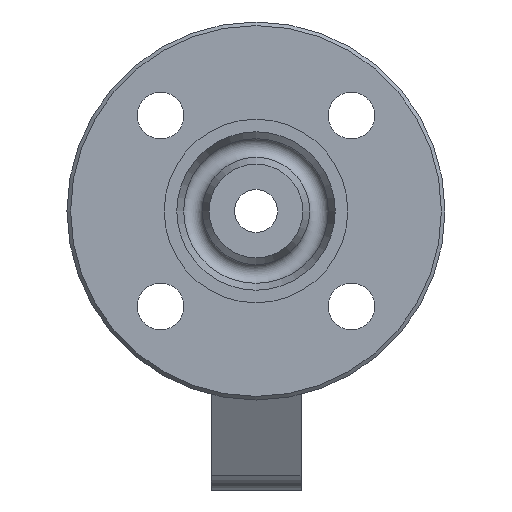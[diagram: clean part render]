
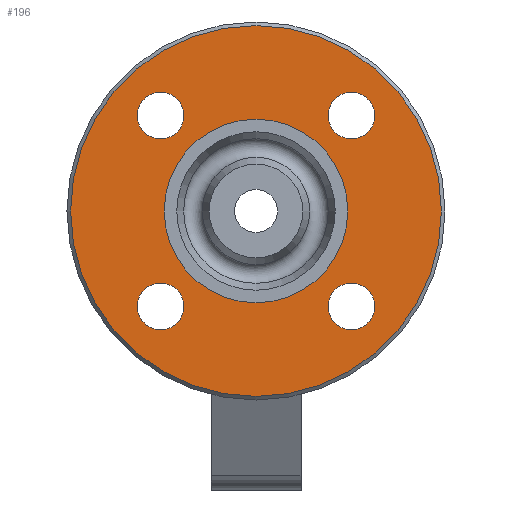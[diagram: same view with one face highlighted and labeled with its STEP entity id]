
A CAD part, left-side view. The second image highlights one B-rep face of the part: STEP entity #196.
In plain terms, the highlighted planar face has unit normal (-1, 0, 0).
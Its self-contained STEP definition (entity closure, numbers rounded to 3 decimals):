
#196=ADVANCED_FACE('',(#1547,#1549,#1551,#1553,#1555,#1557),#1559,.T.);
#1547=FACE_BOUND('',#1548,.T.);
#1548=EDGE_LOOP('',(#2431));
#1549=FACE_BOUND('',#1550,.T.);
#1550=EDGE_LOOP('',(#2432));
#1551=FACE_BOUND('',#1552,.T.);
#1552=EDGE_LOOP('',(#2433));
#1553=FACE_BOUND('',#1554,.T.);
#1554=EDGE_LOOP('',(#2434));
#1555=FACE_BOUND('',#1556,.T.);
#1556=EDGE_LOOP('',(#2435));
#1557=FACE_OUTER_BOUND('',#1558,.T.);
#1558=EDGE_LOOP('',(#2436));
#1559=PLANE('',#1560);
#1560=AXIS2_PLACEMENT_3D('',#1561,#1562,#1563);
#1561=CARTESIAN_POINT('',(-50.,0.,0.));
#1562=DIRECTION('',(-1.,0.,0.));
#1563=DIRECTION('',(0.,1.,0.));
#2431=ORIENTED_EDGE('',*,*,#3349,.T.);
#2432=ORIENTED_EDGE('',*,*,#3350,.T.);
#2433=ORIENTED_EDGE('',*,*,#3351,.T.);
#2434=ORIENTED_EDGE('',*,*,#3352,.T.);
#2435=ORIENTED_EDGE('',*,*,#3330,.F.);
#2436=ORIENTED_EDGE('',*,*,#3353,.F.);
#3330=EDGE_CURVE('',#3749,#3749,#3750,.F.);
#3349=EDGE_CURVE('',#3776,#3776,#3777,.F.);
#3350=EDGE_CURVE('',#3778,#3778,#3779,.F.);
#3351=EDGE_CURVE('',#3780,#3780,#3781,.F.);
#3352=EDGE_CURVE('',#3782,#3782,#3783,.F.);
#3353=EDGE_CURVE('',#3784,#3784,#3785,.T.);
#3749=VERTEX_POINT('',#5154);
#3750=CIRCLE('',#5155,25.5);
#3776=VERTEX_POINT('',#5223);
#3777=CIRCLE('',#5224,6.5);
#3778=VERTEX_POINT('',#5228);
#3779=CIRCLE('',#5229,6.5);
#3780=VERTEX_POINT('',#5233);
#3781=CIRCLE('',#5234,6.5);
#3782=VERTEX_POINT('',#5238);
#3783=CIRCLE('',#5239,6.5);
#3784=VERTEX_POINT('',#5243);
#3785=CIRCLE('',#5244,51.5);
#5154=CARTESIAN_POINT('',(-50.,25.5,0.));
#5155=AXIS2_PLACEMENT_3D('',#5156,#5157,#5158);
#5156=CARTESIAN_POINT('',(-50.,0.,0.));
#5157=DIRECTION('',(1.,-0.,-0.));
#5158=DIRECTION('',(0.,1.,0.));
#5223=CARTESIAN_POINT('',(-50.,-26.517,-33.017));
#5224=AXIS2_PLACEMENT_3D('',#5225,#5226,#5227);
#5225=CARTESIAN_POINT('',(-50.,-26.517,-26.517));
#5226=DIRECTION('',(-1.,0.,0.));
#5227=DIRECTION('',(0.,0.,-1.));
#5228=CARTESIAN_POINT('',(-50.,-33.017,26.517));
#5229=AXIS2_PLACEMENT_3D('',#5230,#5231,#5232);
#5230=CARTESIAN_POINT('',(-50.,-26.517,26.517));
#5231=DIRECTION('',(-1.,0.,0.));
#5232=DIRECTION('',(0.,-1.,-0.));
#5233=CARTESIAN_POINT('',(-50.,26.517,33.017));
#5234=AXIS2_PLACEMENT_3D('',#5235,#5236,#5237);
#5235=CARTESIAN_POINT('',(-50.,26.517,26.517));
#5236=DIRECTION('',(-1.,0.,0.));
#5237=DIRECTION('',(0.,0.,1.));
#5238=CARTESIAN_POINT('',(-50.,33.017,-26.517));
#5239=AXIS2_PLACEMENT_3D('',#5240,#5241,#5242);
#5240=CARTESIAN_POINT('',(-50.,26.517,-26.517));
#5241=DIRECTION('',(-1.,0.,0.));
#5242=DIRECTION('',(0.,1.,0.));
#5243=CARTESIAN_POINT('',(-50.,51.5,0.));
#5244=AXIS2_PLACEMENT_3D('',#5245,#5246,#5247);
#5245=CARTESIAN_POINT('',(-50.,0.,0.));
#5246=DIRECTION('',(1.,-0.,-0.));
#5247=DIRECTION('',(0.,1.,0.));
